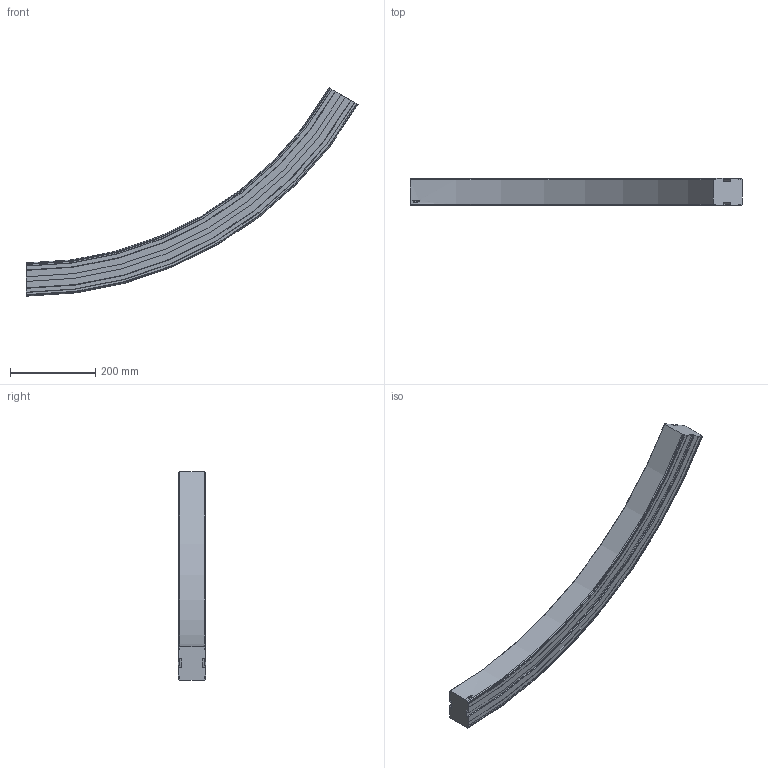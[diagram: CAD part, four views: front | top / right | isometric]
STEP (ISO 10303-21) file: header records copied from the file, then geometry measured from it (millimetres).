
FILE_DESCRIPTION((''),'2;1');
FILE_NAME('C:\Vault Klient\Projekt\Koncept konstruktion\Serie 620 Balk\620-5680_UP.stp','2009-11-27T07:33:58',('Mathias'),(''),'Autodesk Inventor 2010','Autodesk Inventor 2010','');
FILE_SCHEMA(('AUTOMOTIVE_DESIGN { 1 0 10303 214 1 1 1 1 }'));
Length unit declared in the file: millimetre
Products named in the file (1): 620-5680_UP
Bounding box: 779.42 x 64 x 489 mm (x, y, z)
Volume: 4192957.3 mm3; surface area: 334277.8 mm2
Topology: 1 solids, 1 shells, 93 faces, 258 edges, 172 vertices
Faces by surface type: plane 40, cylinder 23, bspline 14, cone 12, torus 4
Entity records: 3437 total; most frequent: CARTESIAN_POINT 1002, ORIENTED_EDGE 516, DIRECTION 472, EDGE_CURVE 258, VERTEX_POINT 172, AXIS2_PLACEMENT_3D 162, VECTOR 148, LINE 148
